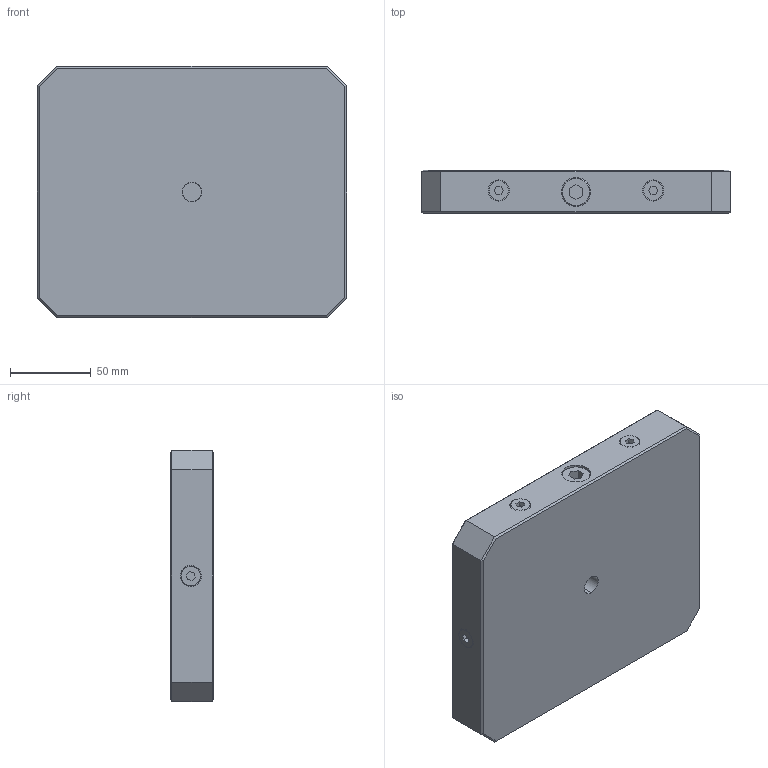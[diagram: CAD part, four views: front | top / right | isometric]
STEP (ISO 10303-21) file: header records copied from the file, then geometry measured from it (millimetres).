
FILE_DESCRIPTION (( 'STEP AP203' ), '1' );
FILE_NAME ('45401.STEP', '2018-10-29T10:00:41', ( '' ), ( '' ), 'SwSTEP 2.0', 'SolidWorks 2015', '' );
FILE_SCHEMA (( 'CONFIG_CONTROL_DESIGN' ));
Length unit declared in the file: millimetre
Products named in the file (1): 45401
Bounding box: 192 x 27 x 156 mm (x, y, z)
Volume: 720165.6 mm3; surface area: 104007.2 mm2
Topology: 8 solids, 8 shells, 193 faces, 460 edges, 283 vertices
Faces by surface type: plane 97, cylinder 60, cone 28, torus 8
Entity records: 6335 total; most frequent: CARTESIAN_POINT 1823, ORIENTED_EDGE 920, DIRECTION 906, EDGE_CURVE 460, AXIS2_PLACEMENT_3D 314, VERTEX_POINT 283, LINE 278, VECTOR 278
